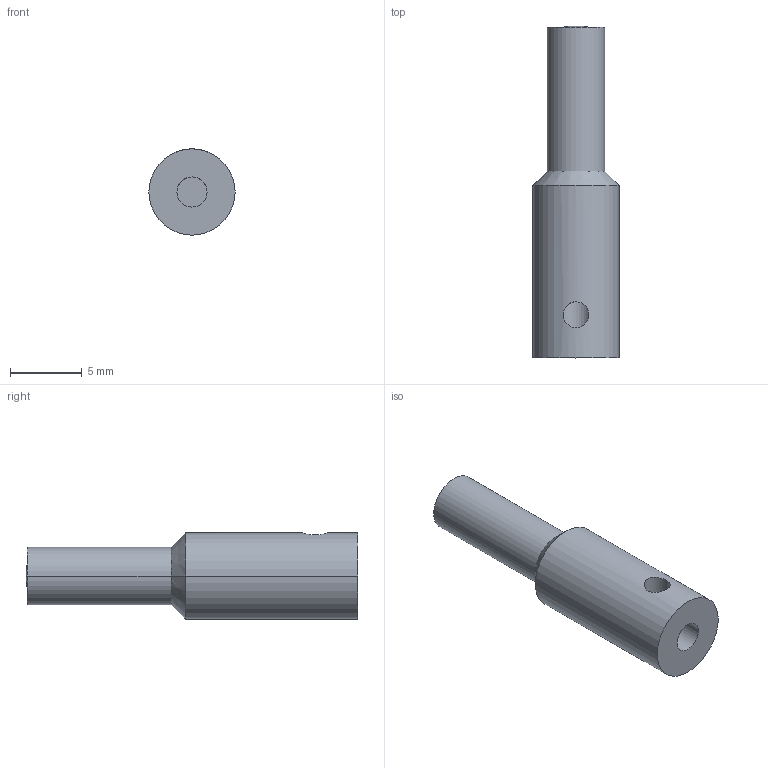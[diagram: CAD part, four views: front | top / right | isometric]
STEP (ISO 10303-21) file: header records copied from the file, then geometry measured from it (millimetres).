
FILE_DESCRIPTION (( 'STEP AP214' ), '1' );
FILE_NAME ('FDC-2.STEP', '2019-06-18T02:41:33', ( '' ), ( '' ), 'SwSTEP 2.0', 'SolidWorks 2018', '' );
FILE_SCHEMA (( 'AUTOMOTIVE_DESIGN' ));
Length unit declared in the file: millimetre
Products named in the file (1): FDC-2
Bounding box: 6 x 23.1 x 6 mm (x, y, z)
Volume: 463.3 mm3; surface area: 453 mm2
Topology: 1 solids, 1 shells, 15 faces, 30 edges, 19 vertices
Faces by surface type: cylinder 8, plane 3, cone 2, sphere 2
Entity records: 500 total; most frequent: CARTESIAN_POINT 139, DIRECTION 74, ORIENTED_EDGE 60, AXIS2_PLACEMENT_3D 32, EDGE_CURVE 30, EDGE_LOOP 19, VERTEX_POINT 19, CIRCLE 16
